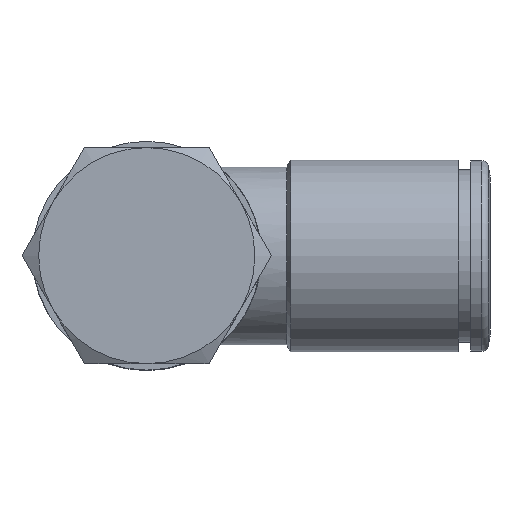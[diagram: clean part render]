
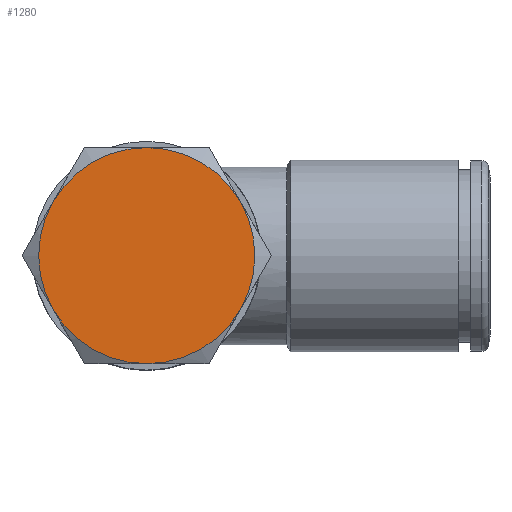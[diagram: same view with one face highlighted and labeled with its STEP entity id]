
A CAD part, top view. The second image highlights one B-rep face of the part: STEP entity #1280.
In plain terms, the highlighted planar face has unit normal (0, 0, 1).
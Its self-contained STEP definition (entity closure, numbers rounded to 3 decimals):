
#1280=ADVANCED_FACE('', (#1290), #1300, .T.);
#5840=AXIS2_PLACEMENT_3D('Ax2Pl3d', #5850, #5860, #5870);
#5920=AXIS2_PLACEMENT_3D('Ax2Pl3d', #5930, #5940, #5950);
#6000=AXIS2_PLACEMENT_3D('Ax2Pl3d', #6010, #6020, #6030);
#6080=AXIS2_PLACEMENT_3D('Ax2Pl3d', #6090, #6100, #6110);
#6160=AXIS2_PLACEMENT_3D('Ax2Pl3d', #6170, #6180, #6190);
#6240=AXIS2_PLACEMENT_3D('Ax2Pl3d', #6250, #6260, #6270);
#6280=AXIS2_PLACEMENT_3D('Ax2Pl3d', #6290, #6300, #6310);
#45740=CARTESIAN_POINT('', (10.608,17.6,37.126));
#45870=CARTESIAN_POINT('', (17.969,21.85,37.126));
#45880=CARTESIAN_POINT('', (10.608,9.1,37.126));
#45960=CARTESIAN_POINT('', (17.969,4.85,37.126));
#46030=CARTESIAN_POINT('', (25.331,17.6,37.126));
#46040=CARTESIAN_POINT('', (25.331,9.1,37.126));
#5850=CARTESIAN_POINT('HicPkt', (17.969,13.35,
37.126));
#5930=CARTESIAN_POINT('HicPkt', (17.969,13.35,
37.126));
#6010=CARTESIAN_POINT('HicPkt', (17.969,13.35,
37.126));
#6090=CARTESIAN_POINT('HicPkt', (17.969,13.35,
37.126));
#6170=CARTESIAN_POINT('HicPkt', (17.969,13.35,
37.126));
#6250=CARTESIAN_POINT('HicPkt', (17.969,13.35,
37.126));
#6290=CARTESIAN_POINT('HicPkt', (25.331,9.1,
37.126));
#47080=CIRCLE('Circle', #5840, 8.5);
#47090=CIRCLE('Circle', #5920, 8.5);
#47100=CIRCLE('Circle', #6000, 8.5);
#47110=CIRCLE('Circle', #6080, 8.5);
#47120=CIRCLE('Circle', #6160, 8.5);
#47130=CIRCLE('Circle', #6240, 8.5);
#5860=DIRECTION('Axis', (0.,0.,-1.));
#5870=DIRECTION('RefDirection', (-1.,-0.,0.));
#5940=DIRECTION('Axis', (0.,0.,-1.));
#5950=DIRECTION('RefDirection', (-1.,-0.,0.));
#6020=DIRECTION('Axis', (0.,0.,-1.));
#6030=DIRECTION('RefDirection', (-1.,-0.,0.));
#6100=DIRECTION('Axis', (0.,0.,-1.));
#6110=DIRECTION('RefDirection', (-1.,-0.,0.));
#6180=DIRECTION('Axis', (0.,0.,-1.));
#6190=DIRECTION('RefDirection', (-1.,-0.,0.));
#6260=DIRECTION('Axis', (0.,0.,-1.));
#6270=DIRECTION('RefDirection', (-1.,-0.,0.));
#6300=DIRECTION('Axis', (-0.,0.,1.));
#6310=DIRECTION('RefDirection', (-1.,0.,-0.));
#53560=EDGE_CURVE('', #53170, #52890, #47080, .T.);
#53570=EDGE_CURVE('', #52890, #53140, #47090, .T.);
#53580=EDGE_CURVE('', #53140, #53510, #47100, .T.);
#53590=EDGE_CURVE('', #53510, #53540, #47110, .T.);
#53600=EDGE_CURVE('', #53540, #53320, #47120, .T.);
#53610=EDGE_CURVE('', #53320, #53170, #47130, .T.);
#56890=EDGE_LOOP('Edge_loop', (#56900,#56910,#56920,#56930,#56940,
#56950));
#1290=FACE_OUTER_BOUND('Face_outer_bound', #56890, .T.);
#56900=ORIENTED_EDGE('', *, *, #53600, .F.);
#56910=ORIENTED_EDGE('', *, *, #53590, .F.);
#56920=ORIENTED_EDGE('', *, *, #53580, .F.);
#56930=ORIENTED_EDGE('', *, *, #53570, .F.);
#56940=ORIENTED_EDGE('', *, *, #53560, .F.);
#56950=ORIENTED_EDGE('', *, *, #53610, .F.);
#1300=PLANE('Plane', #6280);
#52890=VERTEX_POINT('', #45740);
#53140=VERTEX_POINT('', #45870);
#53170=VERTEX_POINT('', #45880);
#53320=VERTEX_POINT('', #45960);
#53510=VERTEX_POINT('', #46030);
#53540=VERTEX_POINT('', #46040);
